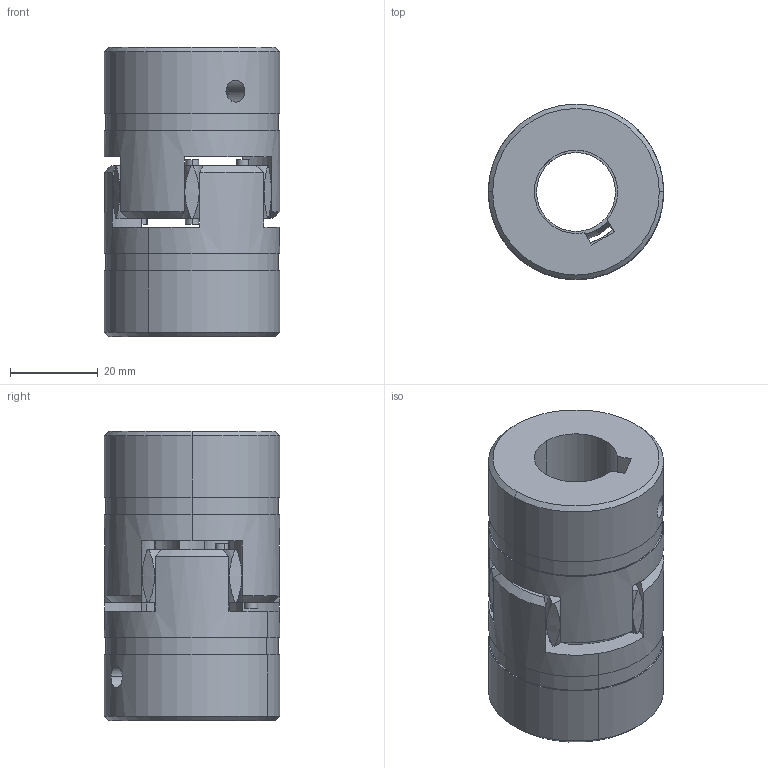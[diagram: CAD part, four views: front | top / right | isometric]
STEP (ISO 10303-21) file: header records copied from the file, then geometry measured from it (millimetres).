
FILE_DESCRIPTION (( 'STEP AP214' ), '1' );
FILE_NAME ('Sprzêg³o Rotex 19-24.STEP', '2026-06-01T07:06:21', ( '' ), ( '' ), 'SwSTEP 2.0', 'SolidWorks 2022', '' );
FILE_SCHEMA (( 'AUTOMOTIVE_DESIGN' ));
Length unit declared in the file: millimetre
Products named in the file (4): Rotex 19.stp; Sprz璕這 Rotex 19-24; £¹cznik Rotex 19.stp
Assembly tree (3 placements, depth 2):
  Sprz璕這 Rotex 19-24
    £¹cznik Rotex 19.stp
    Rotex 19.stp
    Rotex 19.stp
Bounding box: 40 x 40 x 66 mm (x, y, z)
Volume: 54510.3 mm3; surface area: 20262.3 mm2
Topology: 3 solids, 3 shells, 115 faces, 296 edges, 196 vertices
Faces by surface type: cylinder 51, plane 30, bspline 24, cone 10
Entity records: 5784 total; most frequent: CARTESIAN_POINT 2897, ORIENTED_EDGE 592, DIRECTION 552, EDGE_CURVE 296, AXIS2_PLACEMENT_3D 235, VERTEX_POINT 196, CIRCLE 138, EDGE_LOOP 134
